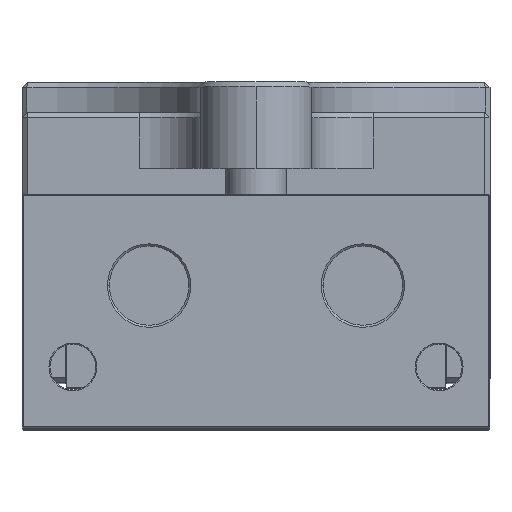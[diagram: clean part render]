
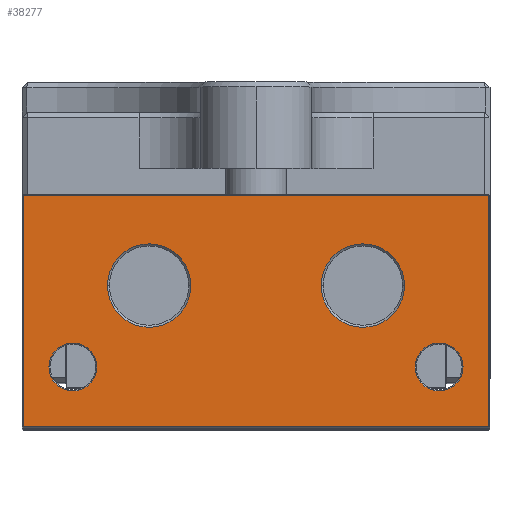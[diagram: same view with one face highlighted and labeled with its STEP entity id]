
A CAD part, top view. The second image highlights one B-rep face of the part: STEP entity #38277.
In plain terms, the highlighted planar face has unit normal (0, 0, 1).
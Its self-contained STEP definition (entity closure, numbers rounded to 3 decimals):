
#117 = ORIENTED_EDGE ( 'NONE', *, *, #17874, .T. ) ;
#158 = CARTESIAN_POINT ( 'NONE',  ( -15.65, 6., 120. ) ) ;
#481 = EDGE_CURVE ( 'NONE', #22401, #33408, #11079, .T. ) ;
#976 = DIRECTION ( 'NONE',  ( 0., 0., -1. ) ) ;
#1231 = AXIS2_PLACEMENT_3D ( 'NONE', #3541, #3281, #17412 ) ;
#1242 = ORIENTED_EDGE ( 'NONE', *, *, #29329, .T. ) ;
#1346 = CARTESIAN_POINT ( 'NONE',  ( -20.35, 6., 120. ) ) ;
#2089 = DIRECTION ( 'NONE',  ( 0., 0., -1. ) ) ;
#2138 = FACE_BOUND ( 'NONE', #6698, .T. ) ;
#2382 = VERTEX_POINT ( 'NONE', #34115 ) ;
#3238 = CIRCLE ( 'NONE', #29160, 2.35 ) ;
#3281 = DIRECTION ( 'NONE',  ( 0., 0., -1. ) ) ;
#3541 = CARTESIAN_POINT ( 'NONE',  ( -10.5, 14., 120. ) ) ;
#4289 = CIRCLE ( 'NONE', #38304, 2.35 ) ;
#4474 = CARTESIAN_POINT ( 'NONE',  ( 18., 6., 120. ) ) ;
#4540 = VERTEX_POINT ( 'NONE', #15520 ) ;
#5479 = DIRECTION ( 'NONE',  ( 0., 0., -1. ) ) ;
#6026 = EDGE_CURVE ( 'NONE', #17614, #18936, #23278, .T. ) ;
#6074 = EDGE_LOOP ( 'NONE', ( #33127, #11999 ) ) ;
#6280 = AXIS2_PLACEMENT_3D ( 'NONE', #20536, #2089, #23615 ) ;
#6683 = EDGE_CURVE ( 'NONE', #36475, #25988, #3238, .T. ) ;
#6689 = AXIS2_PLACEMENT_3D ( 'NONE', #11792, #33303, #14912 ) ;
#6698 = EDGE_LOOP ( 'NONE', ( #22503, #19670 ) ) ;
#7139 = DIRECTION ( 'NONE',  ( 0., -1., 0. ) ) ;
#7563 = DIRECTION ( 'NONE',  ( -1., 0., 0. ) ) ;
#7659 = CARTESIAN_POINT ( 'NONE',  ( 10.5, 14., 120. ) ) ;
#8264 = CIRCLE ( 'NONE', #13565, 4.1 ) ;
#8432 = PLANE ( 'NONE',  #30684 ) ;
#8562 = EDGE_CURVE ( 'NONE', #4540, #35669, #35391, .T. ) ;
#9879 = CARTESIAN_POINT ( 'NONE',  ( 20.35, 6., 120. ) ) ;
#10636 = EDGE_CURVE ( 'NONE', #33408, #22401, #8264, .T. ) ;
#10773 = DIRECTION ( 'NONE',  ( -1., 0., 0. ) ) ;
#10838 = VECTOR ( 'NONE', #7139, 1000. ) ;
#11017 = CARTESIAN_POINT ( 'NONE',  ( -18., 6., 120. ) ) ;
#11079 = CIRCLE ( 'NONE', #1231, 4.1 ) ;
#11265 = CIRCLE ( 'NONE', #36721, 4.1 ) ;
#11792 = CARTESIAN_POINT ( 'NONE',  ( 18., 6., 120. ) ) ;
#11999 = ORIENTED_EDGE ( 'NONE', *, *, #10636, .T. ) ;
#13325 = DIRECTION ( 'NONE',  ( 0., 0., -1. ) ) ;
#13546 = ORIENTED_EDGE ( 'NONE', *, *, #6683, .T. ) ;
#13565 = AXIS2_PLACEMENT_3D ( 'NONE', #34890, #976, #34196 ) ;
#13621 = EDGE_LOOP ( 'NONE', ( #1242, #13546 ) ) ;
#14136 = DIRECTION ( 'NONE',  ( -1., 0., 0. ) ) ;
#14912 = DIRECTION ( 'NONE',  ( -1., 0., 0. ) ) ;
#15167 = LINE ( 'NONE', #37369, #30533 ) ;
#15520 = CARTESIAN_POINT ( 'NONE',  ( -22.9, 22.9, 120. ) ) ;
#17412 = DIRECTION ( 'NONE',  ( -1., 0., 0. ) ) ;
#17614 = VERTEX_POINT ( 'NONE', #35136 ) ;
#17789 = CARTESIAN_POINT ( 'NONE',  ( -14.6, 14., 120. ) ) ;
#17874 = EDGE_CURVE ( 'NONE', #37253, #21318, #11265, .T. ) ;
#18060 = VECTOR ( 'NONE', #19312, 1000. ) ;
#18243 = CIRCLE ( 'NONE', #26408, 4.1 ) ;
#18410 = ORIENTED_EDGE ( 'NONE', *, *, #8562, .T. ) ;
#18542 = FACE_BOUND ( 'NONE', #13621, .T. ) ;
#18808 = CARTESIAN_POINT ( 'NONE',  ( -6.4, 14., 120. ) ) ;
#18936 = VERTEX_POINT ( 'NONE', #39848 ) ;
#19312 = DIRECTION ( 'NONE',  ( -1., 0., 0. ) ) ;
#19670 = ORIENTED_EDGE ( 'NONE', *, *, #25493, .T. ) ;
#20536 = CARTESIAN_POINT ( 'NONE',  ( -18., 6., 120. ) ) ;
#21003 = CARTESIAN_POINT ( 'NONE',  ( 22.9, 23., 120. ) ) ;
#21318 = VERTEX_POINT ( 'NONE', #30718 ) ;
#22218 = CIRCLE ( 'NONE', #6689, 2.35 ) ;
#22401 = VERTEX_POINT ( 'NONE', #18808 ) ;
#22503 = ORIENTED_EDGE ( 'NONE', *, *, #28457, .T. ) ;
#23278 = LINE ( 'NONE', #21003, #30495 ) ;
#23615 = DIRECTION ( 'NONE',  ( -1., 0., 0. ) ) ;
#23773 = EDGE_CURVE ( 'NONE', #35669, #17614, #15167, .T. ) ;
#24162 = DIRECTION ( 'NONE',  ( 1., 0., 0. ) ) ;
#24200 = EDGE_LOOP ( 'NONE', ( #36722, #117 ) ) ;
#25493 = EDGE_CURVE ( 'NONE', #2382, #33017, #22218, .T. ) ;
#25745 = FACE_OUTER_BOUND ( 'NONE', #33437, .T. ) ;
#25988 = VERTEX_POINT ( 'NONE', #158 ) ;
#26002 = DIRECTION ( 'NONE',  ( 0., 0., -1. ) ) ;
#26408 = AXIS2_PLACEMENT_3D ( 'NONE', #7659, #29210, #10773 ) ;
#27004 = DIRECTION ( 'NONE',  ( -1., 0., 0. ) ) ;
#27084 = DIRECTION ( 'NONE',  ( 0., 1., 0. ) ) ;
#27210 = LINE ( 'NONE', #37772, #18060 ) ;
#27698 = FACE_BOUND ( 'NONE', #6074, .T. ) ;
#28453 = CARTESIAN_POINT ( 'NONE',  ( -22.9, 0.1, 120. ) ) ;
#28457 = EDGE_CURVE ( 'NONE', #33017, #2382, #4289, .T. ) ;
#28685 = CARTESIAN_POINT ( 'NONE',  ( -22.9, 0., 120. ) ) ;
#28827 = EDGE_CURVE ( 'NONE', #21318, #37253, #18243, .T. ) ;
#29160 = AXIS2_PLACEMENT_3D ( 'NONE', #11017, #32535, #14136 ) ;
#29210 = DIRECTION ( 'NONE',  ( 0., 0., -1. ) ) ;
#29288 = CIRCLE ( 'NONE', #6280, 2.35 ) ;
#29329 = EDGE_CURVE ( 'NONE', #25988, #36475, #29288, .T. ) ;
#29780 = ORIENTED_EDGE ( 'NONE', *, *, #32551, .T. ) ;
#30495 = VECTOR ( 'NONE', #27084, 1000. ) ;
#30533 = VECTOR ( 'NONE', #24162, 1000. ) ;
#30684 = AXIS2_PLACEMENT_3D ( 'NONE', #39301, #5479, #27004 ) ;
#30718 = CARTESIAN_POINT ( 'NONE',  ( 14.6, 14., 120. ) ) ;
#31534 = ORIENTED_EDGE ( 'NONE', *, *, #23773, .T. ) ;
#31703 = CARTESIAN_POINT ( 'NONE',  ( 10.5, 14., 120. ) ) ;
#32535 = DIRECTION ( 'NONE',  ( 0., 0., -1. ) ) ;
#32551 = EDGE_CURVE ( 'NONE', #18936, #4540, #27210, .T. ) ;
#33017 = VERTEX_POINT ( 'NONE', #9879 ) ;
#33127 = ORIENTED_EDGE ( 'NONE', *, *, #481, .T. ) ;
#33303 = DIRECTION ( 'NONE',  ( 0., 0., -1. ) ) ;
#33408 = VERTEX_POINT ( 'NONE', #17789 ) ;
#33437 = EDGE_LOOP ( 'NONE', ( #29780, #18410, #31534, #36452 ) ) ;
#33913 = FACE_BOUND ( 'NONE', #24200, .T. ) ;
#34115 = CARTESIAN_POINT ( 'NONE',  ( 15.65, 6., 120. ) ) ;
#34196 = DIRECTION ( 'NONE',  ( -1., 0., 0. ) ) ;
#34819 = DIRECTION ( 'NONE',  ( -1., 0., 0. ) ) ;
#34890 = CARTESIAN_POINT ( 'NONE',  ( -10.5, 14., 120. ) ) ;
#35136 = CARTESIAN_POINT ( 'NONE',  ( 22.9, 0.1, 120. ) ) ;
#35391 = LINE ( 'NONE', #28685, #10838 ) ;
#35669 = VERTEX_POINT ( 'NONE', #28453 ) ;
#36452 = ORIENTED_EDGE ( 'NONE', *, *, #6026, .T. ) ;
#36475 = VERTEX_POINT ( 'NONE', #1346 ) ;
#36721 = AXIS2_PLACEMENT_3D ( 'NONE', #31703, #13325, #34819 ) ;
#36722 = ORIENTED_EDGE ( 'NONE', *, *, #28827, .T. ) ;
#37080 = CARTESIAN_POINT ( 'NONE',  ( 6.4, 14., 120. ) ) ;
#37253 = VERTEX_POINT ( 'NONE', #37080 ) ;
#37369 = CARTESIAN_POINT ( 'NONE',  ( 23., 0.1, 120. ) ) ;
#37772 = CARTESIAN_POINT ( 'NONE',  ( -23., 22.9, 120. ) ) ;
#38277 = ADVANCED_FACE ( 'NONE', ( #33913, #27698, #18542, #2138, #25745 ), #8432, .F. ) ;
#38304 = AXIS2_PLACEMENT_3D ( 'NONE', #4474, #26002, #7563 ) ;
#39301 = CARTESIAN_POINT ( 'NONE',  ( -23., 0., 120. ) ) ;
#39848 = CARTESIAN_POINT ( 'NONE',  ( 22.9, 22.9, 120. ) ) ;
